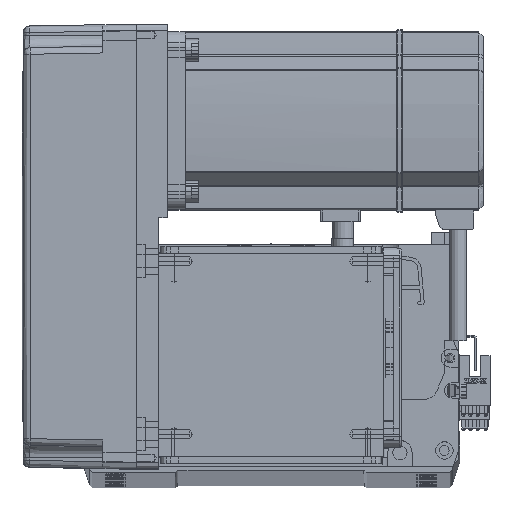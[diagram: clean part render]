
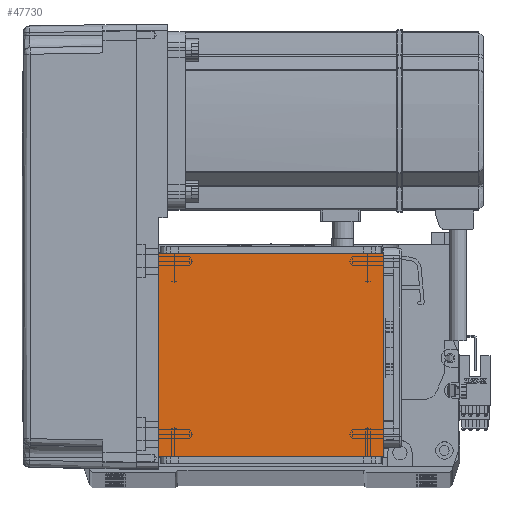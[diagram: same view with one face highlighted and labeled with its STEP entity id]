
A CAD part, top view. The second image highlights one B-rep face of the part: STEP entity #47730.
In plain terms, the highlighted planar face has unit normal (0, 0, 1).
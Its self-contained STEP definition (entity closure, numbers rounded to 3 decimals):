
#552 = CARTESIAN_POINT ( 'NONE',  ( 0., 0., 115. ) ) ;
#3770 = DIRECTION ( 'NONE',  ( -1., 0., 0. ) ) ;
#5876 = DIRECTION ( 'NONE',  ( 1., 0., 0. ) ) ;
#8362 = VERTEX_POINT ( 'NONE', #53213 ) ;
#10174 = LINE ( 'NONE', #59597, #51563 ) ;
#12803 = ORIENTED_EDGE ( 'NONE', *, *, #26336, .T. ) ;
#12974 = CARTESIAN_POINT ( 'NONE',  ( -50.5, 20., 115. ) ) ;
#18576 = CARTESIAN_POINT ( 'NONE',  ( -50.5, 122., 115. ) ) ;
#22548 = VECTOR ( 'NONE', #3770, 1000. ) ;
#26336 = EDGE_CURVE ( 'NONE', #8362, #41289, #40554, .T. ) ;
#27620 = EDGE_LOOP ( 'NONE', ( #38084, #12803, #59912, #51146 ) ) ;
#30575 = VERTEX_POINT ( 'NONE', #59469 ) ;
#34072 = EDGE_CURVE ( 'NONE', #49351, #30575, #10174, .T. ) ;
#38084 = ORIENTED_EDGE ( 'NONE', *, *, #44753, .F. ) ;
#38204 = DIRECTION ( 'NONE',  ( 0., 0., 1. ) ) ;
#38481 = DIRECTION ( 'NONE',  ( 1., 0., 0. ) ) ;
#38648 = LINE ( 'NONE', #51166, #22548 ) ;
#40554 = LINE ( 'NONE', #18576, #61660 ) ;
#41289 = VERTEX_POINT ( 'NONE', #12974 ) ;
#44753 = EDGE_CURVE ( 'NONE', #8362, #30575, #56455, .T. ) ;
#47730 = ADVANCED_FACE ( 'NONE', ( #52798 ), #65076, .T. ) ;
#49351 = VERTEX_POINT ( 'NONE', #55618 ) ;
#49763 = CARTESIAN_POINT ( 'NONE',  ( -70.004, 111.5, 115. ) ) ;
#50629 = AXIS2_PLACEMENT_3D ( 'NONE', #552, #38204, #5876 ) ;
#51146 = ORIENTED_EDGE ( 'NONE', *, *, #34072, .T. ) ;
#51166 = CARTESIAN_POINT ( 'NONE',  ( -70.004, 20., 115. ) ) ;
#51563 = VECTOR ( 'NONE', #53260, 1000. ) ;
#52798 = FACE_OUTER_BOUND ( 'NONE', #27620, .T. ) ;
#53101 = VECTOR ( 'NONE', #38481, 1000. ) ;
#53213 = CARTESIAN_POINT ( 'NONE',  ( -50.5, 111.5, 115. ) ) ;
#53260 = DIRECTION ( 'NONE',  ( 0., 1., 0. ) ) ;
#55618 = CARTESIAN_POINT ( 'NONE',  ( 50.5, 20., 115. ) ) ;
#56455 = LINE ( 'NONE', #49763, #53101 ) ;
#59469 = CARTESIAN_POINT ( 'NONE',  ( 50.5, 111.5, 115. ) ) ;
#59597 = CARTESIAN_POINT ( 'NONE',  ( 50.5, 122., 115. ) ) ;
#59912 = ORIENTED_EDGE ( 'NONE', *, *, #63773, .F. ) ;
#61303 = DIRECTION ( 'NONE',  ( 0., -1., 0. ) ) ;
#61660 = VECTOR ( 'NONE', #61303, 1000. ) ;
#63773 = EDGE_CURVE ( 'NONE', #49351, #41289, #38648, .T. ) ;
#65076 = PLANE ( 'NONE',  #50629 ) ;
